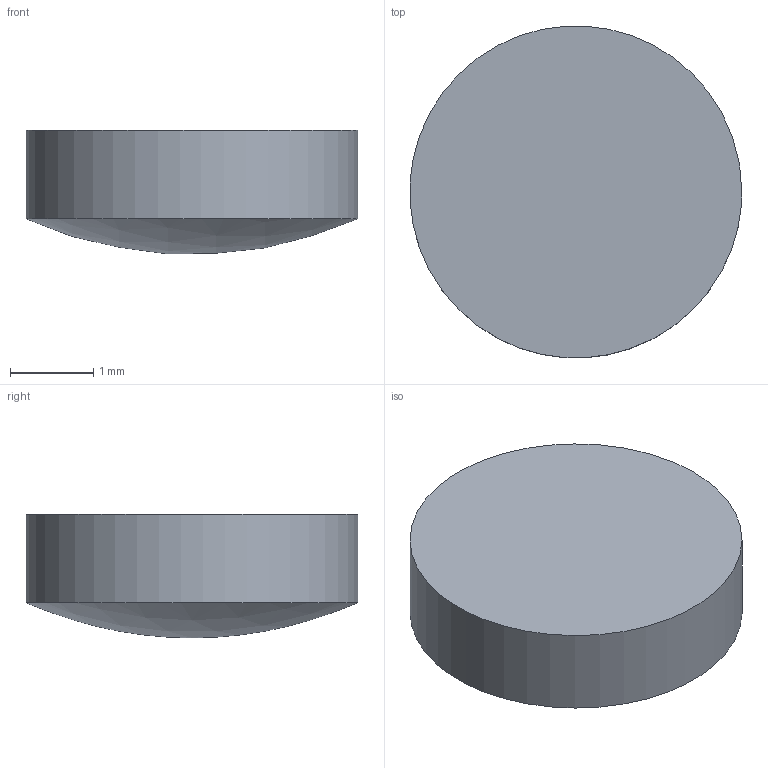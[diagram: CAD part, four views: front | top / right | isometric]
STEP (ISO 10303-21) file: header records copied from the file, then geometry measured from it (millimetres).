
FILE_DESCRIPTION ((), '1');
FILE_NAME ('C:\Users\r.sato\Desktop\<', '2016-12-19T19:04:57', ('Unknown'), ('Unknown'), 'HarmonyWare STEP v1.9.13', 'HarmonyWare Translators', '');
FILE_SCHEMA (('CONFIG_CONTROL_DESIGN'));
Length unit declared in the file: millimetre
Products named in the file (1): NONE
Bounding box: 4 x 3.99 x 1.49 mm (x, y, z)
Volume: 16.2 mm3; surface area: 39.2 mm2
Topology: 1 solids, 1 shells, 3 faces, 3 edges, 2 vertices
Faces by surface type: sphere 1, plane 1, cylinder 1
Full cylindrical faces by diameter (mm): 4 x1
Entity records: 151 total; most frequent: CARTESIAN_POINT 25, PERSON 8, ORGANIZATION 8, PERSON_AND_ORGANIZATION 8, ORIENTED_EDGE 6, DIRECTION 6, PERSON_AND_ORGANIZATION_ROLE 5, CC_DESIGN_PERSON_AND_ORGANIZATION_ASSIGNMENT 5
